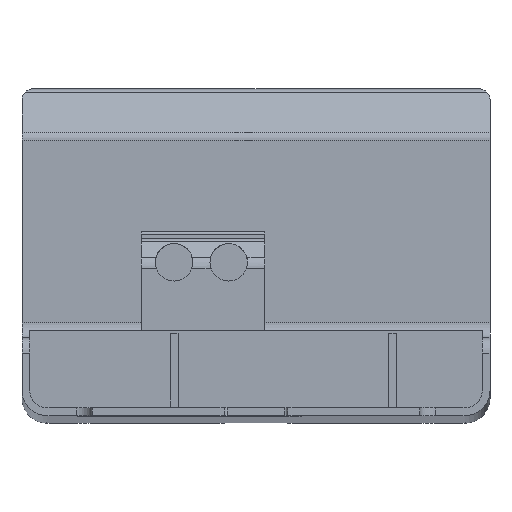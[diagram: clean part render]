
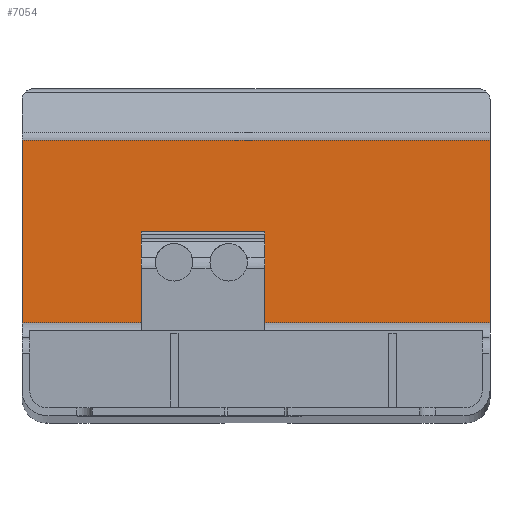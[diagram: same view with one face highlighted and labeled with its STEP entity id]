
A CAD part, top view. The second image highlights one B-rep face of the part: STEP entity #7054.
In plain terms, the highlighted planar face has unit normal (0, 0, 1).
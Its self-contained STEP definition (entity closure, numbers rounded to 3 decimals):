
#1666=DIRECTION('',(1.,0.,0.));
#1667=VECTOR('',#1666,30.);
#1668=CARTESIAN_POINT('',(-15.,6.,110.7));
#1669=LINE('',#1668,#1667);
#2150=DIRECTION('',(0.,1.,0.));
#2151=VECTOR('',#2150,11.71);
#2152=CARTESIAN_POINT('',(-15.,6.,110.7));
#2153=LINE('',#2152,#2151);
#2157=DIRECTION('',(1.,0.,0.));
#2158=VECTOR('',#2157,30.);
#2159=CARTESIAN_POINT('',(-15.,17.71,110.7));
#2160=LINE('',#2159,#2158);
#2164=DIRECTION('',(0.,-1.,0.));
#2165=VECTOR('',#2164,11.71);
#2166=CARTESIAN_POINT('',(15.,17.71,110.7));
#2167=LINE('',#2166,#2165);
#5283=CARTESIAN_POINT('',(-15.,17.71,110.7));
#5284=CARTESIAN_POINT('',(15.,17.71,110.7));
#5285=VERTEX_POINT('',#5283);
#5286=VERTEX_POINT('',#5284);
#5611=CARTESIAN_POINT('',(15.,6.,110.7));
#5612=VERTEX_POINT('',#5611);
#5613=CARTESIAN_POINT('',(-15.,6.,110.7));
#5614=VERTEX_POINT('',#5613);
#7042=CARTESIAN_POINT('',(-15.,5.45,110.7));
#7043=DIRECTION('',(0.,0.,1.));
#7044=DIRECTION('',(0.,1.,0.));
#7045=AXIS2_PLACEMENT_3D('',#7042,#7043,#7044);
#7046=PLANE('',#7045);
#7047=ORIENTED_EDGE('',*,*,#6680,.F.);
#7048=ORIENTED_EDGE('',*,*,#5640,.T.);
#7050=ORIENTED_EDGE('',*,*,#7049,.T.);
#7051=ORIENTED_EDGE('',*,*,#5820,.T.);
#7052=EDGE_LOOP('',(#7047,#7048,#7050,#7051));
#7053=FACE_OUTER_BOUND('',#7052,.F.);
#5640=EDGE_CURVE('',#5614,#5285,#2153,.T.);
#5820=EDGE_CURVE('',#5286,#5612,#2167,.T.);
#6680=EDGE_CURVE('',#5614,#5612,#1669,.T.);
#7049=EDGE_CURVE('',#5285,#5286,#2160,.T.);
#7054=ADVANCED_FACE('',(#7053),#7046,.T.);
